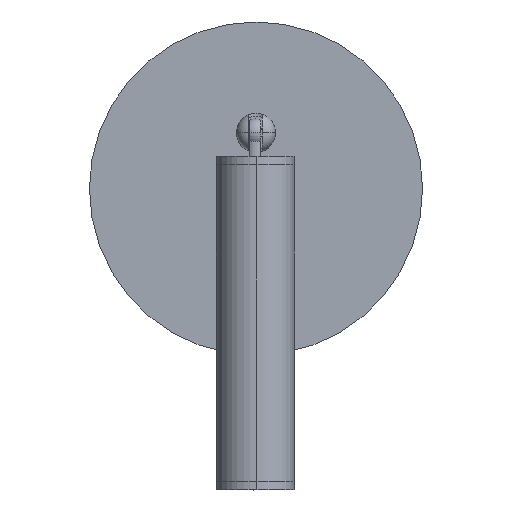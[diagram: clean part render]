
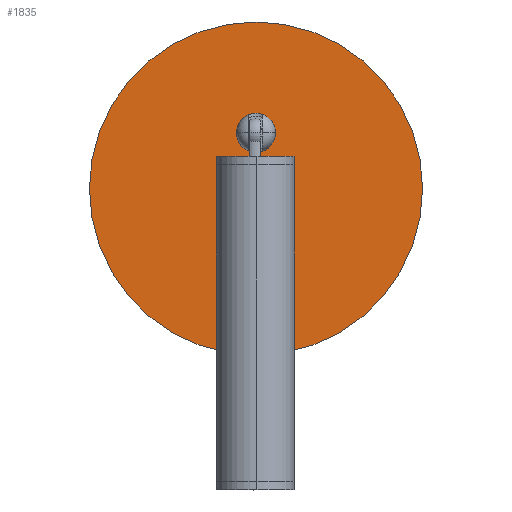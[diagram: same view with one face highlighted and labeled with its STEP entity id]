
A CAD part, top view. The second image highlights one B-rep face of the part: STEP entity #1835.
In plain terms, the highlighted planar face has unit normal (0, 0, 1).
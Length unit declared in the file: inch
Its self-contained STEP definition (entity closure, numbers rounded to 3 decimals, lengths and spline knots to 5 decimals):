
#6 = CARTESIAN_POINT ( 'NONE',  ( 0.03937, -0.56788, 1.02362 ) ) ;
#7 = PLANE ( 'NONE',  #712 ) ;
#67 = EDGE_LOOP ( 'NONE', ( #973, #2848 ) ) ;
#73 = DIRECTION ( 'NONE',  ( 0., 0., -1. ) ) ;
#129 = EDGE_CURVE ( 'NONE', #1482, #467, #340, .T. ) ;
#214 = EDGE_CURVE ( 'NONE', #1466, #1692, #854, .T. ) ;
#261 = VECTOR ( 'NONE', #807, 39.37008 ) ;
#264 = CIRCLE ( 'NONE', #750, 0.25591 ) ;
#284 = CARTESIAN_POINT ( 'NONE',  ( 0., 0., 1.02362 ) ) ;
#324 = CARTESIAN_POINT ( 'NONE',  ( 0.03937, -0.56788, 1.02362 ) ) ;
#340 = LINE ( 'NONE', #1263, #261 ) ;
#343 = EDGE_CURVE ( 'NONE', #405, #2981, #264, .T. ) ;
#395 = VERTEX_POINT ( 'NONE', #1212 ) ;
#405 = VERTEX_POINT ( 'NONE', #725 ) ;
#410 = VECTOR ( 'NONE', #2308, 39.37008 ) ;
#453 = LINE ( 'NONE', #1108, #1295 ) ;
#456 = CARTESIAN_POINT ( 'NONE',  ( 0., 0., 1.02362 ) ) ;
#467 = VERTEX_POINT ( 'NONE', #950 ) ;
#539 = EDGE_CURVE ( 'NONE', #2981, #405, #1131, .T. ) ;
#634 = CARTESIAN_POINT ( 'NONE',  ( 0., 0., 1.02362 ) ) ;
#712 = AXIS2_PLACEMENT_3D ( 'NONE', #634, #927, #2547 ) ;
#722 = ORIENTED_EDGE ( 'NONE', *, *, #1884, .F. ) ;
#725 = CARTESIAN_POINT ( 'NONE',  ( 0.21183, 0.93099, 1.02362 ) ) ;
#726 = DIRECTION ( 'NONE',  ( -1., 0., 0. ) ) ;
#750 = AXIS2_PLACEMENT_3D ( 'NONE', #2250, #1097, #2987 ) ;
#772 = DIRECTION ( 'NONE',  ( 0., 0., -1. ) ) ;
#807 = DIRECTION ( 'NONE',  ( -1., 0., 0. ) ) ;
#854 = LINE ( 'NONE', #6, #410 ) ;
#862 = AXIS2_PLACEMENT_3D ( 'NONE', #284, #772, #726 ) ;
#927 = DIRECTION ( 'NONE',  ( 0., 0., -1. ) ) ;
#950 = CARTESIAN_POINT ( 'NONE',  ( -0.03937, -1.15843, 1.02362 ) ) ;
#973 = ORIENTED_EDGE ( 'NONE', *, *, #343, .T. ) ;
#1006 = AXIS2_PLACEMENT_3D ( 'NONE', #456, #1122, #1380 ) ;
#1076 = CARTESIAN_POINT ( 'NONE',  ( 2.36, 0., 1.02362 ) ) ;
#1097 = DIRECTION ( 'NONE',  ( 0., 0., -1. ) ) ;
#1104 = CIRCLE ( 'NONE', #862, 2.36 ) ;
#1108 = CARTESIAN_POINT ( 'NONE',  ( -0.03937, -0.56788, 1.02362 ) ) ;
#1122 = DIRECTION ( 'NONE',  ( 0., 0., -1. ) ) ;
#1131 = CIRCLE ( 'NONE', #1919, 0.25591 ) ;
#1142 = CIRCLE ( 'NONE', #1006, 2.36 ) ;
#1174 = VERTEX_POINT ( 'NONE', #1076 ) ;
#1212 = CARTESIAN_POINT ( 'NONE',  ( -2.36, 0., 1.02362 ) ) ;
#1263 = CARTESIAN_POINT ( 'NONE',  ( 0.03937, -1.15843, 1.02362 ) ) ;
#1295 = VECTOR ( 'NONE', #1821, 39.37008 ) ;
#1341 = CARTESIAN_POINT ( 'NONE',  ( 0.03937, -1.15843, 1.02362 ) ) ;
#1380 = DIRECTION ( 'NONE',  ( -1., 0., 0. ) ) ;
#1466 = VERTEX_POINT ( 'NONE', #2970 ) ;
#1482 = VERTEX_POINT ( 'NONE', #1341 ) ;
#1546 = EDGE_CURVE ( 'NONE', #395, #1174, #1142, .T. ) ;
#1628 = ORIENTED_EDGE ( 'NONE', *, *, #1546, .F. ) ;
#1692 = VERTEX_POINT ( 'NONE', #2566 ) ;
#1708 = CARTESIAN_POINT ( 'NONE',  ( 0., 0.7874, 1.02362 ) ) ;
#1727 = VECTOR ( 'NONE', #2178, 39.37008 ) ;
#1809 = EDGE_CURVE ( 'NONE', #467, #1692, #453, .T. ) ;
#1821 = DIRECTION ( 'NONE',  ( 0., 1., 0. ) ) ;
#1835 = ADVANCED_FACE ( 'NONE', ( #2953, #2506, #2081 ), #7, .F. ) ;
#1884 = EDGE_CURVE ( 'NONE', #1174, #395, #1104, .T. ) ;
#1919 = AXIS2_PLACEMENT_3D ( 'NONE', #1708, #73, #2168 ) ;
#2081 = FACE_BOUND ( 'NONE', #2394, .T. ) ;
#2101 = EDGE_LOOP ( 'NONE', ( #722, #1628 ) ) ;
#2131 = CARTESIAN_POINT ( 'NONE',  ( -0.21183, 0.64382, 1.02362 ) ) ;
#2168 = DIRECTION ( 'NONE',  ( -0.828, -0.561, 0. ) ) ;
#2178 = DIRECTION ( 'NONE',  ( 0., 1., 0. ) ) ;
#2250 = CARTESIAN_POINT ( 'NONE',  ( 0., 0.7874, 1.02362 ) ) ;
#2308 = DIRECTION ( 'NONE',  ( -1., 0., 0. ) ) ;
#2389 = EDGE_CURVE ( 'NONE', #1482, #1466, #2404, .T. ) ;
#2394 = EDGE_LOOP ( 'NONE', ( #2595, #2678, #2466, #2751 ) ) ;
#2404 = LINE ( 'NONE', #324, #1727 ) ;
#2466 = ORIENTED_EDGE ( 'NONE', *, *, #214, .F. ) ;
#2506 = FACE_OUTER_BOUND ( 'NONE', #2101, .T. ) ;
#2547 = DIRECTION ( 'NONE',  ( -1., 0., 0. ) ) ;
#2566 = CARTESIAN_POINT ( 'NONE',  ( -0.03937, -0.56788, 1.02362 ) ) ;
#2595 = ORIENTED_EDGE ( 'NONE', *, *, #129, .T. ) ;
#2678 = ORIENTED_EDGE ( 'NONE', *, *, #1809, .T. ) ;
#2751 = ORIENTED_EDGE ( 'NONE', *, *, #2389, .F. ) ;
#2848 = ORIENTED_EDGE ( 'NONE', *, *, #539, .T. ) ;
#2953 = FACE_BOUND ( 'NONE', #67, .T. ) ;
#2970 = CARTESIAN_POINT ( 'NONE',  ( 0.03937, -0.56788, 1.02362 ) ) ;
#2981 = VERTEX_POINT ( 'NONE', #2131 ) ;
#2987 = DIRECTION ( 'NONE',  ( -0.828, -0.561, 0. ) ) ;
